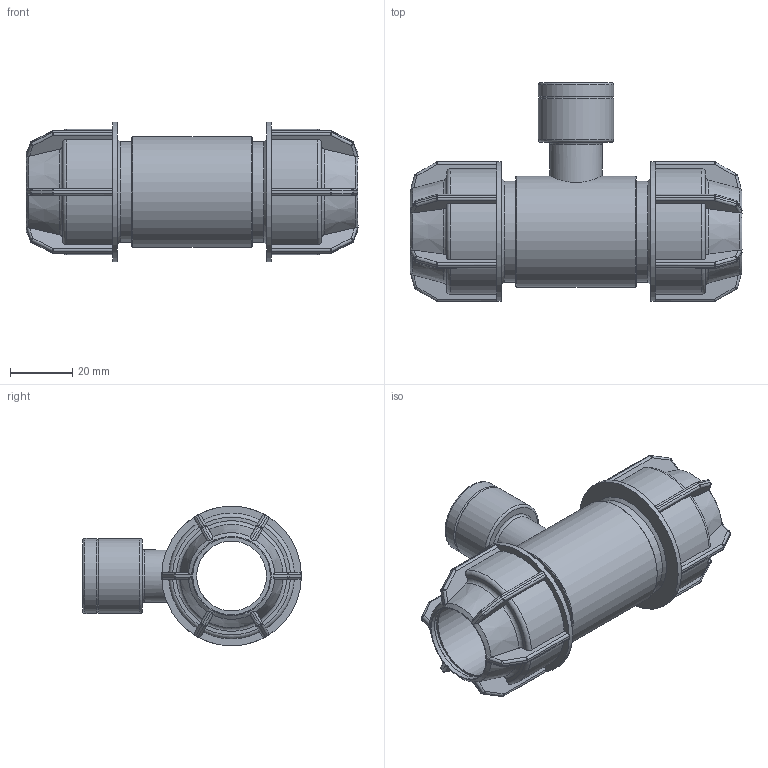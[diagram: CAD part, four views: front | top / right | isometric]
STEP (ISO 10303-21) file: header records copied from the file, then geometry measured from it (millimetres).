
FILE_DESCRIPTION(/* description */ ('PLASSON IRRIFIT TEE FEMALE ADAPTOR 25-1/2"-25'),/* implementation_level */ '2;1');
FILE_NAME(/* name */ 'C:\Dropbox\KIMPROJECTS-Inventor\99-16-3568-Processing\Silver+MF ISRAEL\041407\041407025005.ipt.stp',/* time_stamp */ '2018-04-09T12:59:52+03:00',/* author */ ('KIM'),/* organization */ (''),/* preprocessor_version */ 'ST-DEVELOPER v15.6',/* originating_system */ 'Autodesk Inventor 2015',/* authorisation */ '');
FILE_SCHEMA (('AUTOMOTIVE_DESIGN { 1 0 10303 214 3 1 1 }'));
Length unit declared in the file: millimetre
Products named in the file (1): 041407025005
Bounding box: 107 x 70.5 x 45 mm (x, y, z)
Volume: 68727.8 mm3; surface area: 29817.9 mm2
Topology: 1 solids, 1 shells, 418 faces, 987 edges, 567 vertices
Faces by surface type: plane 197, cylinder 123, sphere 48, torus 32, cone 18
Full cylindrical faces by diameter (mm): 13.042 x1, 16.768 x1, 18.631 x1, 22.5 x1, 24.22 x2, 25 x4, 32.5 x2, 35.75 x1, 45 x2
Entity records: 12132 total; most frequent: CARTESIAN_POINT 3169, DIRECTION 1888, ORIENTED_EDGE 1830, EDGE_CURVE 915, AXIS2_PLACEMENT_3D 764, VERTEX_POINT 543, EDGE_LOOP 458, FACE_OUTER_BOUND 414
